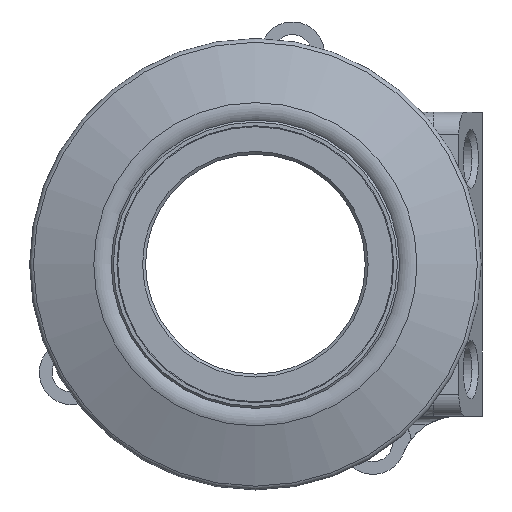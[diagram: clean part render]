
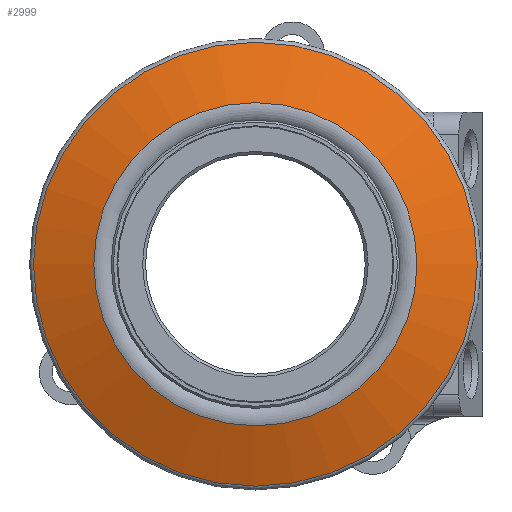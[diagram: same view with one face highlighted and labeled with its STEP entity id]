
A CAD part, front view. The second image highlights one B-rep face of the part: STEP entity #2999.
In plain terms, the highlighted conical face has half-angle 70 degrees and reference radius 50.274 mm.
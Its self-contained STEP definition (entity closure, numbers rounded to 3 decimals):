
#580=CONICAL_SURFACE('',#4521,50.274,1.222);
#662=ORIENTED_EDGE('',*,*,#1463,.F.);
#663=ORIENTED_EDGE('',*,*,#1465,.T.);
#1463=EDGE_CURVE('',#1865,#1865,#2182,.T.);
#1465=EDGE_CURVE('',#1867,#1867,#2184,.F.);
#1865=VERTEX_POINT('',#5792);
#1867=VERTEX_POINT('',#5798);
#2182=CIRCLE('',#4518,38.492);
#2184=CIRCLE('',#4522,28.026);
#2342=EDGE_LOOP('',(#662));
#2343=EDGE_LOOP('',(#663));
#2655=FACE_BOUND('',#2342,.T.);
#2656=FACE_BOUND('',#2343,.T.);
#2999=ADVANCED_FACE('',(#2655,#2656),#580,.T.);
#4518=AXIS2_PLACEMENT_3D('',#5791,#4891,#4892);
#4521=AXIS2_PLACEMENT_3D('',#5796,#4897,#4898);
#4522=AXIS2_PLACEMENT_3D('',#5797,#4899,#4900);
#4891=DIRECTION('',(0.,1.,0.));
#4892=DIRECTION('',(-1.,0.,0.));
#4897=DIRECTION('',(0.,1.,0.));
#4898=DIRECTION('',(0.,0.,1.));
#4899=DIRECTION('',(0.,-1.,0.));
#4900=DIRECTION('',(0.,0.,-1.));
#5791=CARTESIAN_POINT('',(0.,-13.236,0.));
#5792=CARTESIAN_POINT('',(-38.492,-13.236,0.));
#5796=CARTESIAN_POINT('',(0.,-8.947,0.));
#5797=CARTESIAN_POINT('',(0.,-17.045,0.));
#5798=CARTESIAN_POINT('',(0.,-17.045,-28.026));
